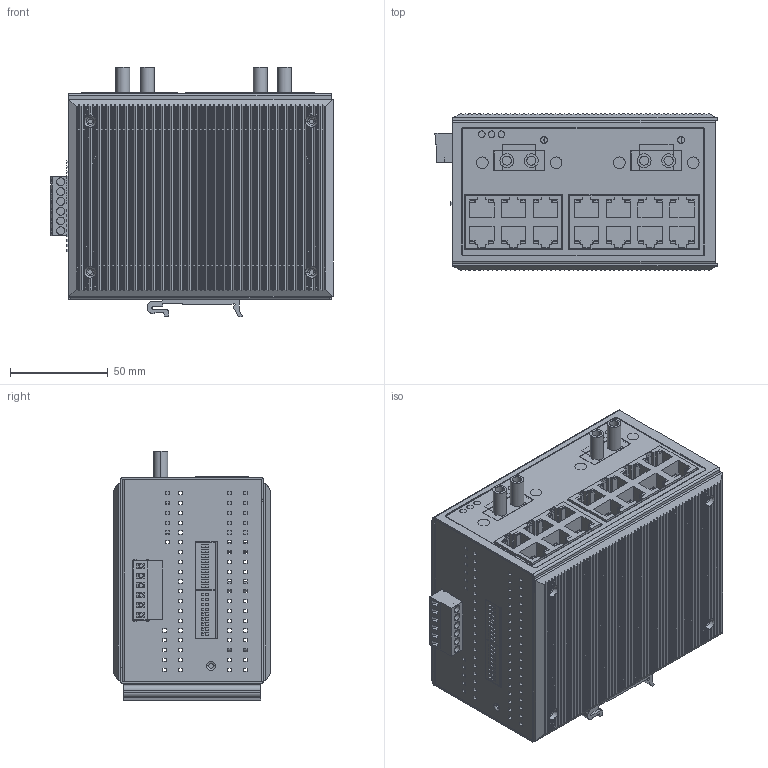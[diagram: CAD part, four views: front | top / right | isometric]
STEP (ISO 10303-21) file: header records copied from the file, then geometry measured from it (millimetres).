
FILE_DESCRIPTION((''),'2;1');
FILE_NAME('EDS-316-MM-ST','2010-08-19T',('Chialu_Chang'),(''),'PRO/ENGINEER BY PARAMETRIC TECHNOLOGY CORPORATION, 2004440','PRO/ENGINEER BY PARAMETRIC TECHNOLOGY CORPORATION, 2004440','');
FILE_SCHEMA(('CONFIG_CONTROL_DESIGN'));
Products named in the file (1): EDS-316-MM-ST
Bounding box: 144.04 x 80.18 x 127.12 mm (x, y, z)
Surface area: 310931.8 mm2 (no closed solid volume)
Topology: 0 solids, 39 shells, 4061 faces, 10542 edges, 6921 vertices
Faces by surface type: plane 2787, cylinder 1172, torus 62, cone 36, bspline 4
Entity records: 124482 total; most frequent: CARTESIAN_POINT 23449, ORIENTED_EDGE 21084, DIRECTION 20076, EDGE_CURVE 10542, VECTOR 7764, LINE 7764, VERTEX_POINT 6921, AXIS2_PLACEMENT_3D 6156
